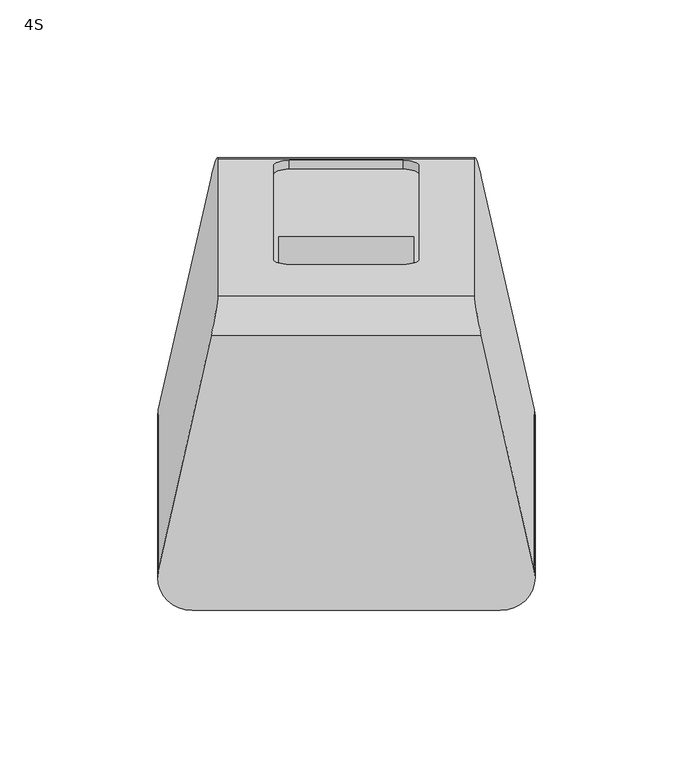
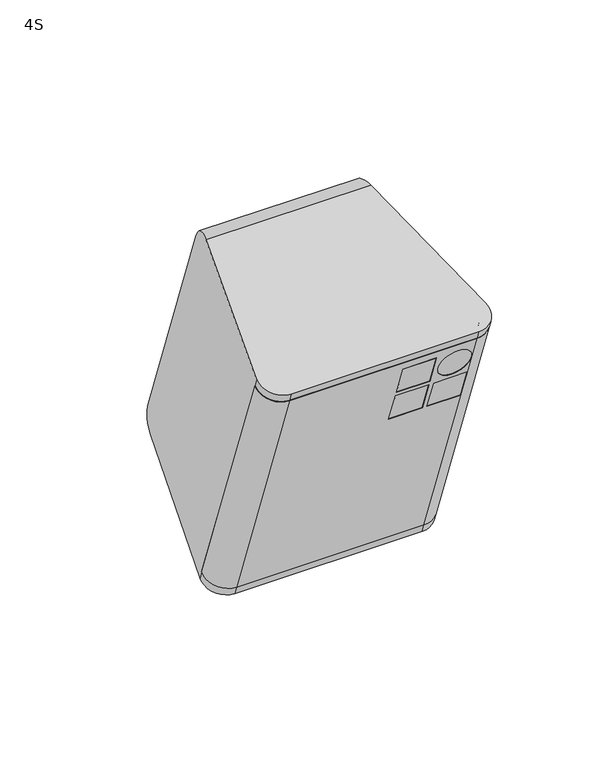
"""IFC4 building model written with IfcOpenShell, lengths in millimetres: proxy geometry, d&b xS-Series 4S Point Source : 4S."""

from ifc_helpers import new_model, si_unit, point, frame, frame_2d, origin, place, context, project, spatial, polyline, circle_curve, ellipse_curve, trimmed, segment, composite_curve, outline, extrude, source, transform, mapped, element, save
from ifc_brep_helpers import plane_surface, cylinder_surface, revolved_surface, advanced_brep


def proxy_4s_9db8a935(model_context):
    return source(origin(), model_context, "Body", "SolidModel", [
        extrude(outline(composite_curve([segment(trimmed(circle_curve(frame_2d((0.0, -6.0)), 6.0), [point((2.2870286, -11.5470262))], [point((-6.0, -6.0))], False, "CARTESIAN"), True, "CONTINUOUS"), segment(polyline([(-6.0, -6.0), (-6.0, 91.8322626)]), True, "CONTINUOUS"), segment(trimmed(circle_curve(frame_2d((0.0, 91.8322626)), 6.0), [point((-6.0, 91.8322626))], [point((2.2870286, 97.3792888))], False, "CARTESIAN"), True, "CONTINUOUS"), segment(polyline([(2.2870286, 97.3792888), (2.2870286, -11.5470262)]), True, "CONTINUOUS")], self_intersect=False)), frame((42.9161313, -13.6462948, -79.4592892), z_axis=(0.0, -0.34202014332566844, 0.9396926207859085), x_axis=(0.0, 0.9396926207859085, 0.34202014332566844)), (0.0, 0.0, 1.0), 140.0),
        advanced_brep(
        [(31.1772445, -57.3298776, 8.3985198), (31.1772445, -52.6314145, 10.1086205), (31.1772445, -58.616767, 26.5532413), (31.1772445, -63.3152301, 24.8431406), (48.6772445, -58.616767, 26.5532413), (48.6772445, -63.3152301, 24.8431406), (48.6772445, -52.6314145, 10.1086205), (48.6772445, -57.3298776, 8.3985198), (11.1772445, -57.3298776, 8.3985198), (11.1772445, -52.6314145, 10.1086205), (11.1772445, -58.616767, 26.5532413), (11.1772445, -63.3152301, 24.8431406), (28.6772445, -58.616767, 26.5532413), (28.6772445, -63.3152301, 24.8431406), (28.6772445, -52.6314145, 10.1086205), (28.6772445, -57.3298776, 8.3985198), (11.1772445, -64.1702805, 27.1923722), (11.1772445, -59.4718174, 28.9024729), (11.1772445, -65.4571699, 45.3470938), (11.1772445, -70.155633, 43.636993), (28.6772445, -65.4571699, 45.3470938), (28.6772445, -70.155633, 43.636993), (28.6772445, -59.4718174, 28.9024729), (28.6772445, -64.1702805, 27.1923722), (39.9272445, -70.155633, 43.636993), (39.9272445, -65.4571699, 45.3470938), (39.9272445, -59.4718174, 28.9024729), (39.9272445, -64.1702805, 27.1923722), (-48.9161313, -23.9829136, -83.2215108), (-59.6757549, -11.4971909, -78.6770793), (-54.4631575, -11.4971909, -78.6770793), (-48.9161313, -19.2844505, -81.51141), (48.9161313, -19.2844505, -81.51141), (54.4631575, -11.4971909, -78.6770793), (59.6757549, -11.4971909, -78.6770793), (48.9161313, -23.9829136, -83.2215108), (-48.9161313, -71.8657337, 48.3354561), (48.9161313, -71.8657337, 48.3354561), (59.6757549, -59.380011, 52.8798876), (54.4631575, -59.380011, 52.8798876), (48.9161313, -67.1672706, 50.0455569), (-48.9161313, -67.1672706, 50.0455569), (-54.4631575, -59.380011, 52.8798876), (-59.6757549, -59.380011, 52.8798876)],
        [
            (0, 1),
            (1, 2),
            (2, 3),
            (3, 0),
            (2, 4),
            (4, 5),
            (5, 3),
            (4, 6),
            (6, 7),
            (7, 5),
            (0, 7),
            (6, 1),
            (8, 9),
            (9, 10),
            (10, 11),
            (11, 8),
            (10, 12),
            (12, 13),
            (13, 11),
            (12, 14),
            (14, 15),
            (15, 13),
            (8, 15),
            (14, 9),
            (16, 17),
            (17, 18),
            (18, 19),
            (19, 16),
            (18, 20),
            (20, 21),
            (21, 19),
            (20, 22),
            (22, 23),
            (23, 21),
            (16, 23),
            (22, 17),
            (24, 25),
            (25, 26, circle_curve(frame((39.9272445, -62.4644936, 37.1247833), z_axis=(0.0, 0.9396926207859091, 0.34202014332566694), x_axis=(0.0, 0.34202014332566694, -0.9396926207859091)), 8.75)),
            (26, 27),
            (27, 24, circle_curve(frame((39.9272445, -67.1629567, 35.4146826), z_axis=(0.0, -0.9396926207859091, -0.34202014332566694), x_axis=(0.0, 0.34202014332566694, -0.9396926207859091)), 8.75)),
            (24, 27, circle_curve(frame((39.9272445, -67.1629567, 35.4146826), z_axis=(0.0, -0.9396926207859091, -0.34202014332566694), x_axis=(0.0, 0.34202014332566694, -0.9396926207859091)), 8.75)),
            (26, 25, circle_curve(frame((39.9272445, -62.4644936, 37.1247833), z_axis=(0.0, 0.9396926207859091, 0.34202014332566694), x_axis=(0.0, 0.34202014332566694, -0.9396926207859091)), 8.75)),
            (28, 29, circle_curve(frame((-48.9161313, -13.6462948, -79.4592892), z_axis=(0.0, 0.34202014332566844, -0.9396926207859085), x_axis=(0.0, -0.9396926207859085, -0.34202014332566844)), 11.0)),
            (29, 30),
            (30, 31, circle_curve(frame((-48.9161313, -13.6462948, -79.4592892), z_axis=(0.0, -0.34202014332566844, 0.9396926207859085), x_axis=(0.0, -0.9396926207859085, -0.34202014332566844)), 6.0)),
            (31, 32),
            (32, 33, circle_curve(frame((48.9161313, -13.6462948, -79.4592892), z_axis=(0.0, -0.34202014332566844, 0.9396926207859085), x_axis=(0.0, -0.9396926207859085, -0.34202014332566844)), 6.0)),
            (33, 34),
            (34, 35, circle_curve(frame((48.9161313, -13.6462948, -79.4592892), z_axis=(0.0, 0.34202014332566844, -0.9396926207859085), x_axis=(0.0, -0.9396926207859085, -0.34202014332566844)), 11.0)),
            (35, 28),
            (36, 37),
            (37, 38, circle_curve(frame((48.9161313, -61.5291149, 52.0976777), z_axis=(0.0, -0.34202014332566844, 0.9396926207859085), x_axis=(0.0, -0.9396926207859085, -0.34202014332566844)), 11.0)),
            (38, 39),
            (39, 40, circle_curve(frame((48.9161313, -61.5291149, 52.0976777), z_axis=(0.0, 0.34202014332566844, -0.9396926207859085), x_axis=(0.0, -0.9396926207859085, -0.34202014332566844)), 6.0)),
            (40, 41),
            (41, 42, circle_curve(frame((-48.9161313, -61.5291149, 52.0976777), z_axis=(0.0, 0.34202014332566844, -0.9396926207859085), x_axis=(0.0, -0.9396926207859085, -0.34202014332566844)), 6.0)),
            (42, 43),
            (43, 36, circle_curve(frame((-48.9161313, -61.5291149, 52.0976777), z_axis=(0.0, -0.34202014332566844, 0.9396926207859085), x_axis=(0.0, -0.9396926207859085, -0.34202014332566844)), 11.0)),
            (28, 36),
            (43, 29),
            (42, 30),
            (41, 31),
            (40, 32),
            (39, 33),
            (38, 34),
            (37, 35),
        ],
        [
            plane_surface(frame((31.1772445, -63.3152301, 24.8431406), z_axis=(1.0, 0.0, 0.0), x_axis=(0.0, 0.9396926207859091, 0.3420201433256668))),
            plane_surface(frame((48.6772445, -63.3152301, 24.8431406), z_axis=(0.0, 0.3420201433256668, -0.9396926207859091), x_axis=(0.0, 0.9396926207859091, 0.3420201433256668))),
            plane_surface(frame((48.6772445, -57.3298776, 8.3985198), z_axis=(-1.0, 0.0, 0.0), x_axis=(0.0, 0.9396926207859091, 0.3420201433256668))),
            plane_surface(frame((31.1772445, -57.3298776, 8.3985198), z_axis=(0.0, -0.3420201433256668, 0.9396926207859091), x_axis=(0.0, 0.9396926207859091, 0.3420201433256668))),
            plane_surface(frame((11.1772445, -63.3152301, 24.8431406), z_axis=(1.0, 0.0, 0.0), x_axis=(0.0, 0.9396926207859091, 0.3420201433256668))),
            plane_surface(frame((28.6772445, -63.3152301, 24.8431406), z_axis=(0.0, 0.3420201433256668, -0.9396926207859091), x_axis=(0.0, 0.9396926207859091, 0.3420201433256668))),
            plane_surface(frame((28.6772445, -57.3298776, 8.3985198), z_axis=(-1.0, 0.0, 0.0), x_axis=(0.0, 0.9396926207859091, 0.3420201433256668))),
            plane_surface(frame((11.1772445, -57.3298776, 8.3985198), z_axis=(0.0, -0.3420201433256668, 0.9396926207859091), x_axis=(0.0, 0.9396926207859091, 0.3420201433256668))),
            plane_surface(frame((11.1772445, -70.155633, 43.636993), z_axis=(1.0, 0.0, 0.0), x_axis=(0.0, 0.9396926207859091, 0.3420201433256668))),
            plane_surface(frame((28.6772445, -70.155633, 43.636993), z_axis=(0.0, 0.3420201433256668, -0.9396926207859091), x_axis=(0.0, 0.9396926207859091, 0.3420201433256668))),
            plane_surface(frame((28.6772445, -64.1702805, 27.1923722), z_axis=(-1.0, 0.0, 0.0), x_axis=(0.0, 0.9396926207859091, 0.3420201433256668))),
            plane_surface(frame((11.1772445, -64.1702805, 27.1923722), z_axis=(0.0, -0.3420201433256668, 0.9396926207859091), x_axis=(0.0, 0.9396926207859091, 0.3420201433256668))),
            revolved_surface(polyline([(39.9272445, -64.17028049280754, 27.192372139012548), (39.9272445, -59.471817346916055, 28.902472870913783)]), (39.9272445, -152.9077549, 4.2061283), (0.0, -0.9396926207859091, -0.34202014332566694)),
            plane_surface(frame((-48.9161313, -23.9829136, -83.2215108), z_axis=(0.0, 0.34202014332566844, -0.9396926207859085), x_axis=(-1.0, 0.0, 0.0))),
            plane_surface(frame((-48.9161313, -71.8657337, 48.3354561), z_axis=(0.0, -0.34202014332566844, 0.9396926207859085), x_axis=(1.0, 0.0, 0.0))),
            cylinder_surface(frame((-48.9161313, -61.5291149, 52.0976777), z_axis=(0.0, 0.34202014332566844, -0.9396926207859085), x_axis=(0.0, -0.9396926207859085, -0.34202014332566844)), 11.0),
            plane_surface(frame((-59.6757549, -11.4971909, -78.6770793), z_axis=(0.0, 0.9396926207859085, 0.34202014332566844), x_axis=(0.0, -0.34202014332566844, 0.9396926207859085))),
            revolved_surface(polyline([(-48.9161313, -67.16727064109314, 50.04555688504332), (-48.9161313, -19.28445055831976, -81.511410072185)]), (-48.9161313, -61.5291149, 52.0976777), (0.0, -0.34202014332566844, 0.9396926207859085)),
            plane_surface(frame((-48.9161313, -19.2844505, -81.51141), z_axis=(0.0, 0.9396926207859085, 0.34202014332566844), x_axis=(0.0, -0.34202014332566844, 0.9396926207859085))),
            revolved_surface(polyline([(48.9161313, -67.16727064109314, 50.04555688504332), (48.9161313, -19.28445055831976, -81.511410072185)]), (48.9161313, -61.5291149, 52.0976777), (0.0, -0.34202014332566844, 0.9396926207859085)),
            plane_surface(frame((54.4631575, -11.4971909, -78.6770793), z_axis=(0.0, 0.9396926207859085, 0.34202014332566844), x_axis=(0.0, -0.34202014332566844, 0.9396926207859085))),
            cylinder_surface(frame((48.9161313, -61.5291149, 52.0976777), z_axis=(0.0, 0.34202014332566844, -0.9396926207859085), x_axis=(0.0, -0.9396926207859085, -0.34202014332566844)), 11.0),
            plane_surface(frame((48.9161313, -23.9829136, -83.2215108), z_axis=(0.0, -0.9396926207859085, -0.34202014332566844), x_axis=(0.0, -0.34202014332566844, 0.9396926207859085))),
        ],
        [
            (0, [[1, 2, 3, 4]]),
            (1, [[-3, 5, 6, 7]]),
            (2, [[-6, 8, 9, 10]]),
            (3, [[-1, 11, -9, 12]]),
            (4, [[13, 14, 15, 16]]),
            (5, [[-15, 17, 18, 19]]),
            (6, [[-18, 20, 21, 22]]),
            (7, [[-13, 23, -21, 24]]),
            (8, [[25, 26, 27, 28]]),
            (9, [[-27, 29, 30, 31]]),
            (10, [[-30, 32, 33, 34]]),
            (11, [[-25, 35, -33, 36]]),
            (12, [[37, 38, 39, 40]]),
            (12, [[-37, 41, -39, 42]]),
            (13, [[43, 44, 45, 46, 47, 48, 49, 50]]),
            (14, [[51, 52, 53, 54, 55, 56, 57, 58]]),
            (15, [[-43, 59, -58, 60]]),
            (16, [[-44, -60, -57, 61]]),
            (17, [[-45, -61, -56, 62]]),
            (18, [[-46, -62, -55, 63], [-2, -12, -8, -5], [-14, -24, -20, -17], [-26, -36, -32, -29], [-38, -42]]),
            (19, [[-47, -63, -54, 64]]),
            (20, [[-48, -64, -53, 65]]),
            (21, [[-49, -65, -52, 66]]),
            (22, [[-50, -66, -51, -59], [-4, -7, -10, -11], [-16, -19, -22, -23], [-28, -31, -34, -35], [-40, -41]]),
        ],
    ),
        extrude(outline(polyline([(0.0, -17.5), (0.0, 0.0), (5.0, 0.0), (5.0, -17.5), (0.0, -17.5)])), frame((31.1622558, -57.3298776, 8.3985198), z_axis=(0.0, -0.3420201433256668, 0.9396926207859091), x_axis=(0.0, 0.9396926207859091, 0.3420201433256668)), (0.0, 0.0, 1.0), 17.5),
        extrude(outline(polyline([(0.0, -17.5), (0.0, 0.0), (5.0, 0.0), (5.0, -17.5), (0.0, -17.5)])), frame((11.1622558, -57.3298776, 8.3985198), z_axis=(0.0, -0.3420201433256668, 0.9396926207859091), x_axis=(0.0, 0.9396926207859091, 0.3420201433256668)), (0.0, 0.0, 1.0), 17.5),
        extrude(outline(polyline([(0.0, -17.5), (0.0, 0.0), (5.0, 0.0), (5.0, -17.5), (0.0, -17.5)])), frame((11.1622558, -64.1702805, 27.1923722), z_axis=(0.0, -0.3420201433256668, 0.9396926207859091), x_axis=(0.0, 0.9396926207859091, 0.3420201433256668)), (0.0, 0.0, 1.0), 17.5),
        extrude(outline(composite_curve([segment(trimmed(circle_curve(frame_2d((-8.75, -28.7499999)), 8.75), [point((-8.75, -37.4999999))], [point((-8.75, -20.0))], False, "CARTESIAN"), True, "CONTINUOUS"), segment(trimmed(circle_curve(frame_2d((-8.75, -28.7499999)), 8.75), [point((-8.75, -20.0))], [point((-8.75, -37.4999999))], False, "CARTESIAN"), True, "CONTINUOUS")], self_intersect=False)), frame((48.6622558, -57.3298776, 8.3985198), z_axis=(0.0, 0.9396926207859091, 0.34202014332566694), x_axis=(1.0, 0.0, 0.0)), (0.0, 0.0, 1.0), 5.0),
        advanced_brep(
        [(23.0610927, 64.7474167, -37.5494541), (18.0610927, 66.4575174, -42.2479172), (-18.0610927, 66.4575174, -42.2479172), (-23.0610927, 64.7474167, -37.5494541), (-23.0610927, 35.1657667, 43.7254613), (-18.0610927, 33.455666, 48.4239244), (18.0610927, 33.455666, 48.4239244), (23.0610927, 35.1657667, 43.7254613), (16.4913486, 33.9925501, 46.9488474), (-16.4913486, 33.9925501, 46.9488474), (-21.4913486, 35.7026508, 42.2503843), (-21.4913486, 45.0777302, 16.4925653), (21.4913486, 45.0777302, 16.4925653), (21.4913486, 35.7026508, 42.2503843), (23.0610927, 67.5664945, -36.5233937), (18.0610927, 69.2765953, -41.2218568), (-18.0610927, 69.2765953, -41.2218568), (-23.0610927, 67.5664945, -36.5233937), (-23.0610927, 37.9848446, 44.7515217), (-18.0610927, 36.2747438, 49.4499848), (18.0610927, 36.2747438, 49.4499848), (23.0610927, 37.9848446, 44.7515217), (-16.4913486, 18.9574681, 41.4765251), (16.4913486, 18.9574681, 41.4765251), (21.4913486, 20.6675689, 36.778062), (21.4913486, 30.0426483, 11.020243), (-21.4913486, 30.0426483, 11.020243), (-21.4913486, 20.6675689, 36.778062), (-48.9161313, -23.9829136, -83.2215108), (48.9161313, -23.9829136, -83.2215108), (59.6757549, -11.4971909, -78.6770793), (-59.6757549, -11.4971909, -78.6770793), (-48.9161313, -71.8657337, 48.3354561), (-59.6757549, -59.380011, 52.8798876), (59.6757549, -59.380011, 52.8798876), (48.9161313, -71.8657337, 48.3354561), (-59.6757549, -60.9935752, 57.3131188), (-42.9086571, 13.5909691, 83.03221), (-40.8192307, 26.2478342, 76.9986927), (-40.8192307, 69.6029652, -42.1185507), (-42.9086571, 63.7855142, -54.8761692), (-59.6757549, -9.8814747, -83.1162233), (42.9086571, 13.5909691, 83.03221), (59.6757549, -60.9935752, 57.3131188), (59.6757549, -9.8814747, -83.1162233), (42.9086571, 63.7855142, -54.8761692), (40.8192307, 69.6029652, -42.1185507), (40.8192307, 26.2478342, 76.9986927), (-48.9161313, -22.289921, -87.8729698), (48.9161313, -22.289921, -87.8729698), (-48.9161313, -73.5565743, 52.9810025), (48.9161313, -73.5565743, 52.9810025)],
        [
            (0, 1, circle_curve(frame((18.0610927, 64.7474167, -37.5494541), z_axis=(0.0, 0.9396926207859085, 0.34202014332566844), x_axis=(1.0, 0.0, 0.0)), 5.0)),
            (1, 2),
            (2, 3, circle_curve(frame((-18.0610927, 64.7474167, -37.5494541), z_axis=(0.0, 0.9396926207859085, 0.34202014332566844), x_axis=(1.0, 0.0, 0.0)), 5.0)),
            (3, 4),
            (4, 5, circle_curve(frame((-18.0610927, 35.1657667, 43.7254613), z_axis=(0.0, 0.9396926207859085, 0.34202014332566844), x_axis=(1.0, 0.0, 0.0)), 5.0)),
            (5, 6),
            (6, 7, circle_curve(frame((18.0610927, 35.1657667, 43.7254613), z_axis=(0.0, 0.9396926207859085, 0.34202014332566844), x_axis=(1.0, 0.0, 0.0)), 5.0)),
            (7, 0),
            (8, 9),
            (9, 10, circle_curve(frame((-16.4913486, 35.7026508, 42.2503843), z_axis=(0.0, -0.9396926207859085, -0.34202014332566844), x_axis=(1.0, 0.0, 0.0)), 5.0)),
            (10, 11),
            (11, 12),
            (12, 13),
            (13, 8, circle_curve(frame((16.4913486, 35.7026508, 42.2503843), z_axis=(0.0, -0.9396926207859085, -0.34202014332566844), x_axis=(1.0, 0.0, 0.0)), 5.0)),
            (0, 14),
            (14, 15, circle_curve(frame((18.0610927, 67.5664945, -36.5233937), z_axis=(0.0, 0.9396926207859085, 0.34202014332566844), x_axis=(1.0, 0.0, 0.0)), 5.0)),
            (15, 1),
            (15, 16),
            (16, 2),
            (16, 17, circle_curve(frame((-18.0610927, 67.5664945, -36.5233937), z_axis=(0.0, 0.9396926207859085, 0.34202014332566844), x_axis=(1.0, 0.0, 0.0)), 5.0)),
            (17, 3),
            (17, 18),
            (18, 4),
            (18, 19, circle_curve(frame((-18.0610927, 37.9848446, 44.7515217), z_axis=(0.0, 0.9396926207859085, 0.34202014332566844), x_axis=(1.0, 0.0, 0.0)), 5.0)),
            (19, 5),
            (19, 20),
            (20, 6),
            (20, 21, circle_curve(frame((18.0610927, 37.9848446, 44.7515217), z_axis=(0.0, 0.9396926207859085, 0.34202014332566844), x_axis=(1.0, 0.0, 0.0)), 5.0)),
            (21, 7),
            (21, 14),
            (22, 23),
            (23, 24, circle_curve(frame((16.4913486, 20.6675689, 36.778062), z_axis=(0.0, 0.9396926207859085, 0.34202014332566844), x_axis=(1.0, 0.0, 0.0)), 5.0)),
            (24, 25),
            (25, 26),
            (26, 27),
            (27, 22, circle_curve(frame((-16.4913486, 20.6675689, 36.778062), z_axis=(0.0, 0.9396926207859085, 0.34202014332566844), x_axis=(1.0, 0.0, 0.0)), 5.0)),
            (28, 29),
            (29, 30, circle_curve(frame((48.9161313, -13.6462948, -79.4592892), z_axis=(0.0, -0.34202014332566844, 0.9396926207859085), x_axis=(0.0, -0.9396926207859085, -0.34202014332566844)), 11.0)),
            (30, 31),
            (31, 28, circle_curve(frame((-48.9161313, -13.6462948, -79.4592892), z_axis=(0.0, -0.34202014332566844, 0.9396926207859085), x_axis=(0.0, -0.9396926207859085, -0.34202014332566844)), 11.0)),
            (32, 33, circle_curve(frame((-48.9161313, -61.5291149, 52.0976777), z_axis=(0.0, 0.34202014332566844, -0.9396926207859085), x_axis=(0.0, -0.9396926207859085, -0.34202014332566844)), 11.0)),
            (33, 34),
            (34, 35, circle_curve(frame((48.9161313, -61.5291149, 52.0976777), z_axis=(0.0, 0.34202014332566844, -0.9396926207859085), x_axis=(0.0, -0.9396926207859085, -0.34202014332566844)), 11.0)),
            (35, 32),
            (22, 9),
            (8, 23),
            (13, 24),
            (12, 25),
            (11, 26),
            (10, 27),
            (36, 37),
            (37, 38, ellipse_curve(frame((-42.9447963, 16.850908, 73.5784912), z_axis=(-0.978147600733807, 0.1953730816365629, 0.07110998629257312), x_axis=(0.20791169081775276, 0.9191580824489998, 0.33454618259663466)), 10.2234059, 10.0)),
            (38, 39),
            (39, 40, ellipse_curve(frame((-42.9447963, 60.206039, -45.5387521), z_axis=(-0.978147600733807, 0.1953730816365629, 0.07110998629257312), x_axis=(0.20791169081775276, 0.9191580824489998, 0.33454618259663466)), 10.2234059, 10.0)),
            (40, 41),
            (41, 31),
            (31, 33),
            (33, 36),
            (30, 34),
            (42, 43),
            (43, 34),
            (30, 44),
            (44, 45),
            (45, 46, ellipse_curve(frame((42.9447963, 60.206039, -45.5387521), z_axis=(0.978147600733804, 0.19537308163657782, 0.07110998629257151), x_axis=(0.20791169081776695, -0.9191580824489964, -0.33454618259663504)), 10.2234059, 10.0)),
            (46, 47),
            (47, 42, ellipse_curve(frame((42.9447963, 16.850908, 73.5784912), z_axis=(0.978147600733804, 0.19537308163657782, 0.07110998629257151), x_axis=(0.20791169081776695, -0.9191580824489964, -0.33454618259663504)), 10.2234059, 10.0)),
            (38, 47),
            (46, 39),
            (41, 48, ellipse_curve(frame((-48.9161313, -12.0172774, -83.9349778), z_axis=(0.0, -0.3579475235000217, 0.9337417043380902), x_axis=(0.0, -0.933741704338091, -0.35794752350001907)), 11.0015903, 11.0)),
            (48, 28),
            (29, 49),
            (49, 44, ellipse_curve(frame((48.9161313, -12.0172774, -83.9349778), z_axis=(0.0, -0.3579475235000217, 0.9337417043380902), x_axis=(0.0, -0.933741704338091, -0.35794752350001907)), 11.0015903, 11.0)),
            (48, 49),
            (32, 50),
            (50, 36, ellipse_curve(frame((-48.9161313, -63.1559803, 56.5674537), z_axis=(0.0, 0.3259938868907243, -0.9453718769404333), x_axis=(0.0, 0.9453718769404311, 0.32599388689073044)), 11.0015903, 11.0)),
            (43, 51, ellipse_curve(frame((48.9161313, -63.1559803, 56.5674537), z_axis=(0.0, 0.3259938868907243, -0.9453718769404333), x_axis=(0.0, 0.9453718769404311, 0.32599388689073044)), 11.0015903, 11.0)),
            (51, 35),
            (51, 50),
            (40, 45),
            (42, 37),
        ],
        [
            plane_surface(frame((23.0610927, 64.7474167, -37.5494541), z_axis=(0.0, 0.9396926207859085, 0.34202014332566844), x_axis=(0.0, -0.34202014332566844, 0.9396926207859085))),
            revolved_surface(polyline([(23.0610927, 67.566494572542, -36.523393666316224), (23.0610927, 64.74741668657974, -37.549454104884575)]), (18.0610927, 64.7474167, -37.5494541), (0.0, 0.9396926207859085, 0.34202014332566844)),
            plane_surface(frame((18.0610927, 69.2765953, -41.2218568), z_axis=(0.0, -0.34202014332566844, 0.9396926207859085), x_axis=(0.0, -0.9396926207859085, -0.34202014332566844))),
            revolved_surface(polyline([(-13.0610927, 67.566494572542, -36.523393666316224), (-13.0610927, 64.74741668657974, -37.549454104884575)]), (-18.0610927, 64.7474167, -37.5494541), (0.0, 0.9396926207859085, 0.34202014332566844)),
            plane_surface(frame((-23.0610927, 67.5664945, -36.5233937), z_axis=(1.0, 0.0, 0.0), x_axis=(0.0, -0.9396926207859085, -0.34202014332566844))),
            revolved_surface(polyline([(-13.0610927, 37.98484458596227, 44.75152173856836), (-13.0610927, 35.1657667, 43.7254613)]), (-18.0610927, 35.1657667, 43.7254613), (0.0, 0.9396926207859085, 0.34202014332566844)),
            plane_surface(frame((-18.0610927, 36.2747438, 49.4499848), z_axis=(0.0, 0.34202014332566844, -0.9396926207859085), x_axis=(0.0, -0.9396926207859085, -0.34202014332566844))),
            revolved_surface(polyline([(23.0610927, 37.98484458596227, 44.75152173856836), (23.0610927, 35.1657667, 43.7254613)]), (18.0610927, 35.1657667, 43.7254613), (0.0, 0.9396926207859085, 0.34202014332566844)),
            plane_surface(frame((23.0610927, 37.9848446, 44.7515217), z_axis=(-1.0, 0.0, 0.0), x_axis=(0.0, -0.9396926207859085, -0.34202014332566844))),
            plane_surface(frame((10.0, 18.9574681, 41.4765251), z_axis=(0.0, 0.9396926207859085, 0.34202014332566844), x_axis=(-1.0, 0.0, 0.0))),
            plane_surface(frame((-48.9161313, -23.9829136, -83.2215108), z_axis=(0.0, -0.34202014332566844, 0.9396926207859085), x_axis=(1.0, 0.0, 0.0))),
            plane_surface(frame((-48.9161313, -71.8657337, 48.3354561), z_axis=(0.0, 0.34202014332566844, -0.9396926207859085), x_axis=(-1.0, 0.0, 0.0))),
            plane_surface(frame((-16.4913486, 36.8116279, 47.9749079), z_axis=(0.0, 0.34202014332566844, -0.9396926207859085), x_axis=(0.0, -0.9396926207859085, -0.34202014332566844))),
            revolved_surface(polyline([(21.4913486, 35.70265081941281, 42.250384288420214), (21.4913486, 20.667568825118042, 36.7780619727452)]), (16.4913486, 20.6675689, 36.778062), (0.0, 0.9396926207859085, 0.34202014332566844)),
            plane_surface(frame((21.4913486, 38.5217287, 43.2764448), z_axis=(-1.0, 0.0, 0.0), x_axis=(0.0, -0.9396926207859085, -0.34202014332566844))),
            plane_surface(frame((21.4913486, 47.8968081, 17.5186258), z_axis=(0.0, -0.34202014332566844, 0.9396926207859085), x_axis=(0.0, -0.9396926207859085, -0.34202014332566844))),
            plane_surface(frame((-21.4913486, 47.8968081, 17.5186258), z_axis=(1.0, 0.0, 0.0), x_axis=(0.0, -0.9396926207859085, -0.34202014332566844))),
            revolved_surface(polyline([(-11.491348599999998, 35.70265081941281, 42.250384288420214), (-11.491348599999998, 20.667568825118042, 36.7780619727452)]), (-16.4913486, 20.6675689, 36.778062), (0.0, 0.9396926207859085, 0.34202014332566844)),
            plane_surface(frame((-40.8192307, 22.292073, 87.8670572), z_axis=(-0.978147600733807, 0.1953730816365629, 0.07110998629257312), x_axis=(0.0, 0.34202014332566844, -0.9396926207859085))),
            plane_surface(frame((-59.6757549, -61.0708516, 57.525434), z_axis=(0.0, -0.9396926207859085, -0.34202014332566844), x_axis=(0.0, 0.34202014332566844, -0.9396926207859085))),
            plane_surface(frame((59.6757549, -61.0708516, 57.525434), z_axis=(0.9781476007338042, 0.19537308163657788, 0.07110998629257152), x_axis=(0.0, 0.34202014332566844, -0.9396926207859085))),
            plane_surface(frame((40.8192307, 22.292073, 87.8670572), z_axis=(0.0, 0.9396926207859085, 0.34202014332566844), x_axis=(0.0, 0.34202014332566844, -0.9396926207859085))),
            cylinder_surface(frame((-48.9161313, -13.6462948, -79.4592892), z_axis=(0.0, 0.34202014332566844, -0.9396926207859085), x_axis=(0.0, -0.9396926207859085, -0.34202014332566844)), 11.0),
            cylinder_surface(frame((48.9161313, -13.6462948, -79.4592892), z_axis=(0.0, 0.34202014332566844, -0.9396926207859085), x_axis=(0.0, -0.9396926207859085, -0.34202014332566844)), 11.0),
            plane_surface(frame((48.9161313, -22.289921, -87.8729698), z_axis=(0.0, -0.9396926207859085, -0.34202014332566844), x_axis=(0.0, -0.34202014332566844, 0.9396926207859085))),
            cylinder_surface(frame((-48.9161313, -63.2199555, 56.7432241), z_axis=(0.0, 0.34202014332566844, -0.9396926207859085), x_axis=(0.0, -0.9396926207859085, -0.34202014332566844)), 11.0),
            cylinder_surface(frame((48.9161313, -63.2199555, 56.7432241), z_axis=(0.0, 0.34202014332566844, -0.9396926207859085), x_axis=(0.0, -0.9396926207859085, -0.34202014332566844)), 11.0),
            plane_surface(frame((48.9161313, -71.8657337, 48.3354561), z_axis=(0.0, -0.9396926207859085, -0.34202014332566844), x_axis=(0.0, -0.34202014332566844, 0.9396926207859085))),
            plane_surface(frame((-65.0, -28.0901702, -90.0964807), z_axis=(0.0, 0.3579475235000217, -0.9337417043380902), x_axis=(1.0, 0.0, 0.0))),
            cylinder_surface(frame((65.0, 60.206039, -45.5387521), z_axis=(1.0, 0.0, 0.0), x_axis=(0.0, 0.9396926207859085, 0.34202014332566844)), 10.0),
            plane_surface(frame((-65.0, 13.5909691, 83.03221), z_axis=(0.0, -0.3259938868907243, 0.9453718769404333), x_axis=(1.0, 0.0, 0.0))),
            cylinder_surface(frame((65.0, 16.850908, 73.5784912), z_axis=(1.0, 0.0, 0.0), x_axis=(0.0, 0.9396926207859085, 0.34202014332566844)), 10.0),
        ],
        [
            (0, [[1, 2, 3, 4, 5, 6, 7, 8], [9, 10, 11, 12, 13, 14]]),
            (1, [[-1, 15, 16, 17]]),
            (2, [[-2, -17, 18, 19]]),
            (3, [[-3, -19, 20, 21]]),
            (4, [[-4, -21, 22, 23]]),
            (5, [[-5, -23, 24, 25]]),
            (6, [[-6, -25, 26, 27]]),
            (7, [[-7, -27, 28, 29]]),
            (8, [[-8, -29, 30, -15]]),
            (9, [[31, 32, 33, 34, 35, 36]]),
            (10, [[37, 38, 39, 40]]),
            (11, [[41, 42, 43, 44]]),
            (12, [[-31, 45, -9, 46]]),
            (13, [[-32, -46, -14, 47]]),
            (14, [[-33, -47, -13, 48]]),
            (15, [[-34, -48, -12, 49]]),
            (16, [[-35, -49, -11, 50]]),
            (17, [[-36, -50, -10, -45]]),
            (18, [[51, 52, 53, 54, 55, 56, 57, 58]]),
            (19, [[-39, 59, -42, -57]]),
            (20, [[60, 61, -59, 62, 63, 64, 65, 66]]),
            (21, [[67, -65, 68, -53], [-16, -30, -28, -26, -24, -22, -20, -18]]),
            (22, [[-40, -56, 69, 70]]),
            (23, [[-38, 71, 72, -62]]),
            (24, [[-37, -70, 73, -71]]),
            (25, [[-41, 74, 75, -58]]),
            (26, [[-43, -61, 76, 77]]),
            (27, [[-44, -77, 78, -74]]),
            (28, [[79, -63, -72, -73, -69, -55]]),
            (29, [[-79, -54, -68, -64]]),
            (30, [[80, -51, -75, -78, -76, -60]]),
            (31, [[-80, -66, -67, -52]]),
        ],
    ),
    ])


if __name__ == "__main__":
    model = new_model("IFC4")
    model_context = context("Model", 3, world=origin())
    ifc_project = project(units=[si_unit("LENGTHUNIT", "METRE", prefix="MILLI")], contexts=[model_context])
    site = spatial("IfcSite", under=ifc_project)
    building = spatial("IfcBuilding", under=site)
    placement = place(None, origin())
    proxy_4s_shape = proxy_4s_9db8a935(model_context)
    element("IfcBuildingElementProxy", 1, Name="d&b xS-Series 4S Point Source : 4S", ObjectType="d&b xS-Series 4S Point Source : 4S", at=placement, inside=building, context=model_context, shape_type="MappedRepresentation", body=[
        mapped(proxy_4s_shape, transform((0.0, 0.0, 0.0), x_axis=(1.0, 0.0, 0.0), y_axis=(0.0, 1.0, 0.0), z_axis=(0.0, 0.0, 1.0))),
    ])
    save(model, "model.ifc")
